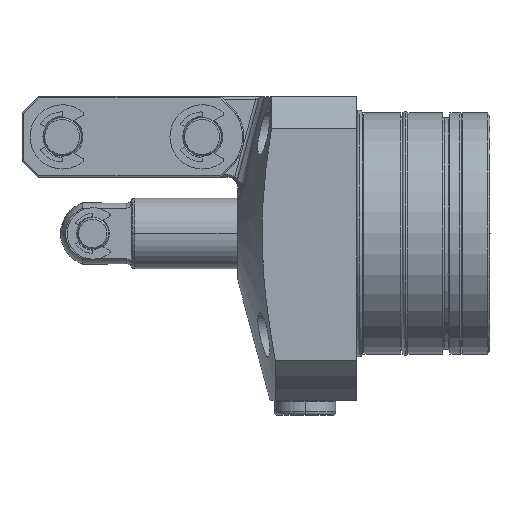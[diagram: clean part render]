
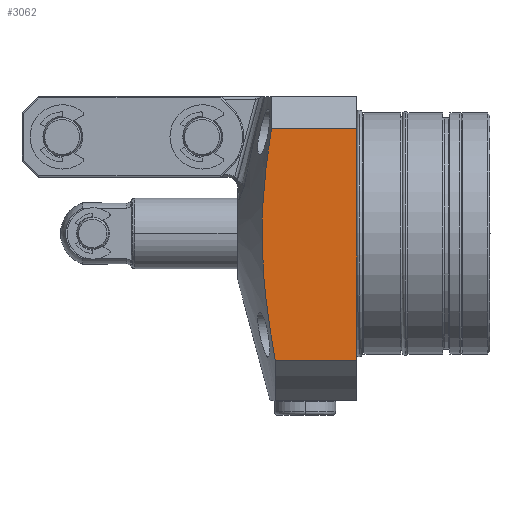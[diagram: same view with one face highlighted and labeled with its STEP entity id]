
A CAD part, top view. The second image highlights one B-rep face of the part: STEP entity #3062.
In plain terms, the highlighted planar face has unit normal (0, 0, 1).
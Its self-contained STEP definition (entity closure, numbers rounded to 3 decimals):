
#1485=B_SPLINE_CURVE_WITH_KNOTS('',3,(#12762,#12763,#12764,#12765,#12766,
#12767),.UNSPECIFIED.,.F.,.F.,(4,2,4),(0.,0.5,1.),.UNSPECIFIED.);
#1773=PLANE('',#8751);
#2347=LINE('',#13413,#2702);
#2349=LINE('',#13422,#2704);
#2357=LINE('',#13443,#2712);
#2702=VECTOR('',#10533,1.);
#2704=VECTOR('',#10545,1.);
#2712=VECTOR('',#10571,1.);
#3062=ADVANCED_FACE('',(#3544),#1773,.F.);
#3544=FACE_OUTER_BOUND('',#3987,.T.);
#3987=EDGE_LOOP('',(#5372,#5373,#5374,#5375));
#5372=ORIENTED_EDGE('',*,*,#7252,.T.);
#5373=ORIENTED_EDGE('',*,*,#7349,.T.);
#5374=ORIENTED_EDGE('',*,*,#7355,.T.);
#5375=ORIENTED_EDGE('',*,*,#7368,.F.);
#6468=VERTEX_POINT('',#12761);
#6469=VERTEX_POINT('',#12768);
#6540=VERTEX_POINT('',#13414);
#6542=VERTEX_POINT('',#13423);
#7252=EDGE_CURVE('',#6469,#6468,#1485,.T.);
#7349=EDGE_CURVE('',#6468,#6540,#2347,.T.);
#7355=EDGE_CURVE('',#6540,#6542,#2349,.T.);
#7368=EDGE_CURVE('',#6469,#6542,#2357,.T.);
#8751=AXIS2_PLACEMENT_3D('',#13445,#10574,#10575);
#10533=DIRECTION('',(1.,0.,0.));
#10545=DIRECTION('',(0.,1.,0.));
#10571=DIRECTION('',(1.,0.,0.));
#10574=DIRECTION('',(0.,0.,-1.));
#10575=DIRECTION('',(-1.,0.,0.));
#12761=CARTESIAN_POINT('',(-25.237,-39.468,42.5));
#12762=CARTESIAN_POINT('',(-26.442,32.5,42.5));
#12763=CARTESIAN_POINT('',(-28.387,20.546,42.5));
#12764=CARTESIAN_POINT('',(-29.612,8.574,42.5));
#12765=CARTESIAN_POINT('',(-29.093,-15.451,42.5));
#12766=CARTESIAN_POINT('',(-27.414,-27.528,42.5));
#12767=CARTESIAN_POINT('',(-25.237,-39.468,42.5));
#12768=CARTESIAN_POINT('',(-26.442,32.5,42.5));
#13413=CARTESIAN_POINT('',(-61.,-39.468,42.5));
#13414=CARTESIAN_POINT('',(0.,-39.468,42.5));
#13422=CARTESIAN_POINT('',(0.,32.5,42.5));
#13423=CARTESIAN_POINT('',(0.,32.5,42.5));
#13443=CARTESIAN_POINT('',(-61.,32.5,42.5));
#13445=CARTESIAN_POINT('',(-61.,32.5,42.5));
